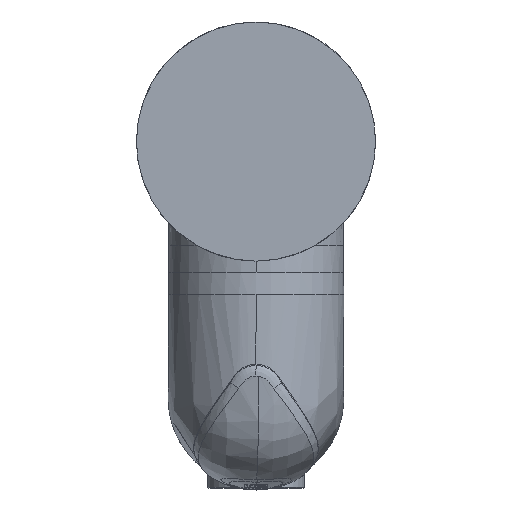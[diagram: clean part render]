
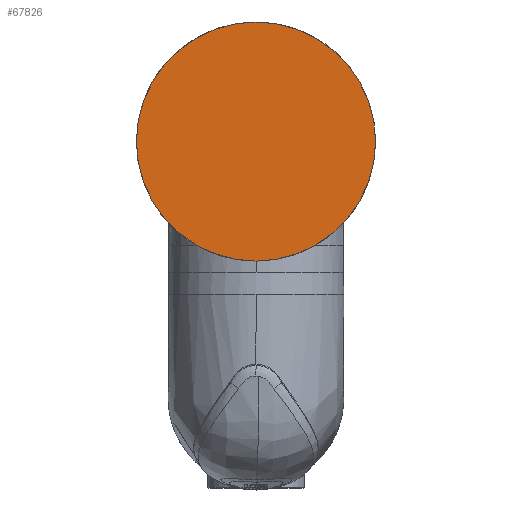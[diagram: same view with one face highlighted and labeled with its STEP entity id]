
A CAD part, front view. The second image highlights one B-rep face of the part: STEP entity #67826.
In plain terms, the highlighted planar face has unit normal (0, -1, 0).
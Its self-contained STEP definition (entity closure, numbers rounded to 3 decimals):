
#1500 = ORIENTED_EDGE ( 'NONE', *, *, #25547, .T. ) ;
#1556 = FACE_OUTER_BOUND ( 'NONE', #54830, .T. ) ;
#2907 = CARTESIAN_POINT ( 'NONE',  ( 0., 0., 122.5 ) ) ;
#7526 = DIRECTION ( 'NONE',  ( 0., -1., 0. ) ) ;
#8054 = DIRECTION ( 'NONE',  ( 0., 0., -1. ) ) ;
#11526 = CARTESIAN_POINT ( 'NONE',  ( -79.75, 0., 0. ) ) ;
#25547 = EDGE_CURVE ( 'NONE', #80307, #60908, #95880, .T. ) ;
#34649 = DIRECTION ( 'NONE',  ( 0., -1., 0. ) ) ;
#35207 = DIRECTION ( 'NONE',  ( 0., 0., -1. ) ) ;
#36843 = AXIS2_PLACEMENT_3D ( 'NONE', #70015, #34649, #35207 ) ;
#41329 = EDGE_CURVE ( 'NONE', #60908, #80307, #76417, .T. ) ;
#44824 = DIRECTION ( 'NONE',  ( 0., 1., 0. ) ) ;
#47885 = CARTESIAN_POINT ( 'NONE',  ( 0., 0., -122.5 ) ) ;
#48177 = AXIS2_PLACEMENT_3D ( 'NONE', #83413, #7526, #8054 ) ;
#54830 = EDGE_LOOP ( 'NONE', ( #1500, #88210 ) ) ;
#60908 = VERTEX_POINT ( 'NONE', #2907 ) ;
#63349 = AXIS2_PLACEMENT_3D ( 'NONE', #11526, #44824, #70202 ) ;
#67826 = ADVANCED_FACE ( 'NONE', ( #1556 ), #102937, .F. ) ;
#70015 = CARTESIAN_POINT ( 'NONE',  ( 0., 0., 0. ) ) ;
#70202 = DIRECTION ( 'NONE',  ( 0., 0., -1. ) ) ;
#76417 = CIRCLE ( 'NONE', #36843, 122.5 ) ;
#80307 = VERTEX_POINT ( 'NONE', #47885 ) ;
#83413 = CARTESIAN_POINT ( 'NONE',  ( 0., 0., 0. ) ) ;
#88210 = ORIENTED_EDGE ( 'NONE', *, *, #41329, .T. ) ;
#95880 = CIRCLE ( 'NONE', #48177, 122.5 ) ;
#102937 = PLANE ( 'NONE',  #63349 ) ;
